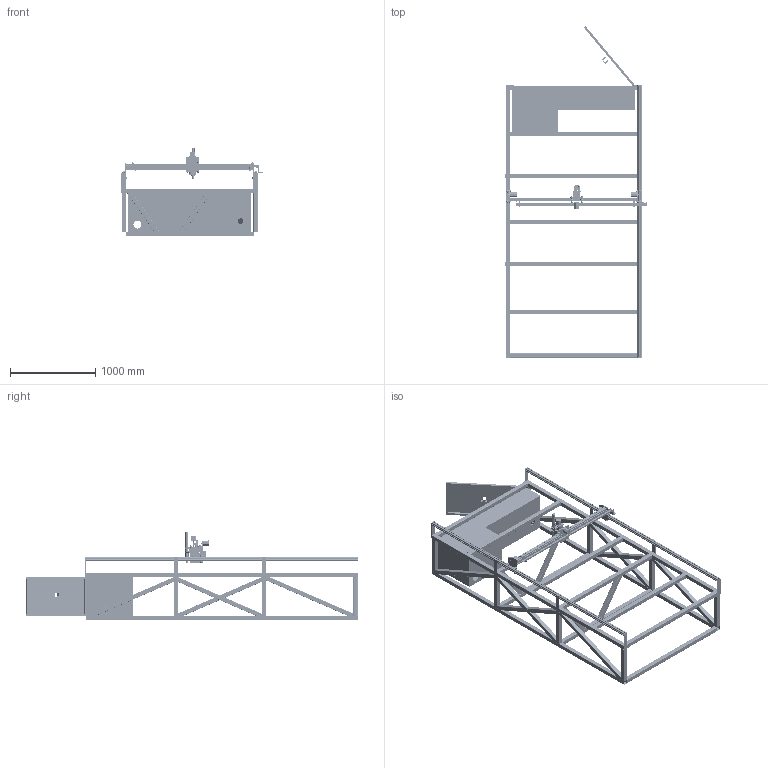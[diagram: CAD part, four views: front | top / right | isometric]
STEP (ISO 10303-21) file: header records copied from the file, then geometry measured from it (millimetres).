
FILE_DESCRIPTION(/* description */ ('','CAx-IF Rec.Pracs.---Representation and Presentation of Product Manufacturing Information (PMI)---4.0---2014-10-13'),/* implementation_level */ '2;1');
FILE_NAME(/* name */ 'PlsamaCamaCompleta v11.step',/* time_stamp */ '2025-04-15T14:47:33-06:00',/* author */ (''),/* organization */ (''),/* preprocessor_version */ 'ST-DEVELOPER v20',/* originating_system */ 'Autodesk Translation Framework v13.20.0.188',/* authorisation */ '');
FILE_SCHEMA (('AP242_MANAGED_MODEL_BASED_3D_ENGINEERING_MIM_LF { 1 0 10303 442 1 1 4 }'));
Products named in the file (146): PlsamaCamaCompleta; Mesa; Orejas; PerfilAluminioY; TubosInferior; TubosSuperior; Travesanos; OrejasLaterales; ladoB; cajon; puerta; Tapa; Puente; ejeZ; Eje Z Comercial; nema 23; Componente2; Componente3; guia; patin; Perfil20x80; inferior; superior; bloke; guia_1; patin_1; Componente6; Componente11; Componente10; Componente8; Componente7; Componente9; Componente12; Componente13; guia (1); Componente19; Componente20; ejeX; setTornillos3; rueda 608zz v2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
Assembly tree (218 placements, depth 7):
  PlsamaCamaCompleta
    Mesa
      ladoB  x2
      Orejas
      PerfilAluminioY
      TubosInferior
      TubosSuperior
      Travesanos
      OrejasLaterales
    cajon
      puerta
      Tapa
    Puente
      ejeZ
        Eje Z Comercial
          nema 23
            Componente2
            Componente3
          guia
            patin
              Componente6
              Componente11
              Componente10
              Componente8
              Componente7
              Componente9
              Componente12
              Componente13
            guia (1)
          Perfil20x80
          inferior
          superior
          bloke
          guia_1
            patin_1
              Componente6
              Componente11
              Componente10
              Componente8
              Componente7
              Componente9
              Componente12
              Componente13
            guia (1)
          Componente19
          Componente20
      ejeX
        setTornillos3
          M8x70
          espaciador (1)
          rueda 608zz v2
            Componente4
            Componente5
          arandela (1)  x2
          balero 8bore 22 radio 608rs v1  x2
          tuerca m8  x2
        setTornillos3_1
          M8x70
          espaciador (1)
          rueda 608zz v2_1
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Bounding box: 1661.23 x 3905.56 x 1038.92 mm (x, y, z)
Volume: 19791279.3 mm3; surface area: 30423268.4 mm2
Topology: 257 solids, 257 shells, 23192 faces, 48505 edges, 25941 vertices
Faces by surface type: plane 16721, cylinder 4059, torus 1682, cone 482, bspline 234, sphere 12, other 2
Full cylindrical faces by diameter (mm): 1.146 x36, 1.288 x10, 1.6 x42, 2 x2, 2.14 x6, 2.603 x8, 3 x16, 3.2 x2, 3.5 x16, 4 x8, 4.2 x8, 4.3 x6, 4.5 x4, 5 x44, 5.5 x4, 5.9 x2, 6 x36, 6.2 x2, 6.3 x8, 6.35 x4, 6.376 x234, 6.701 x72, 6.8 x4, 8 x419, 8.051 x120, 10 x138, 10.325 x4, 11.5 x8, 12 x36, 12.6 x6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
Entity records: 714067 total; most frequent: CARTESIAN_POINT 327671, DIRECTION 79314, ORIENTED_EDGE 76378, EDGE_CURVE 38189, LINE 26932, VECTOR 26932, AXIS2_PLACEMENT_3D 26191, EDGE_LOOP 19998
